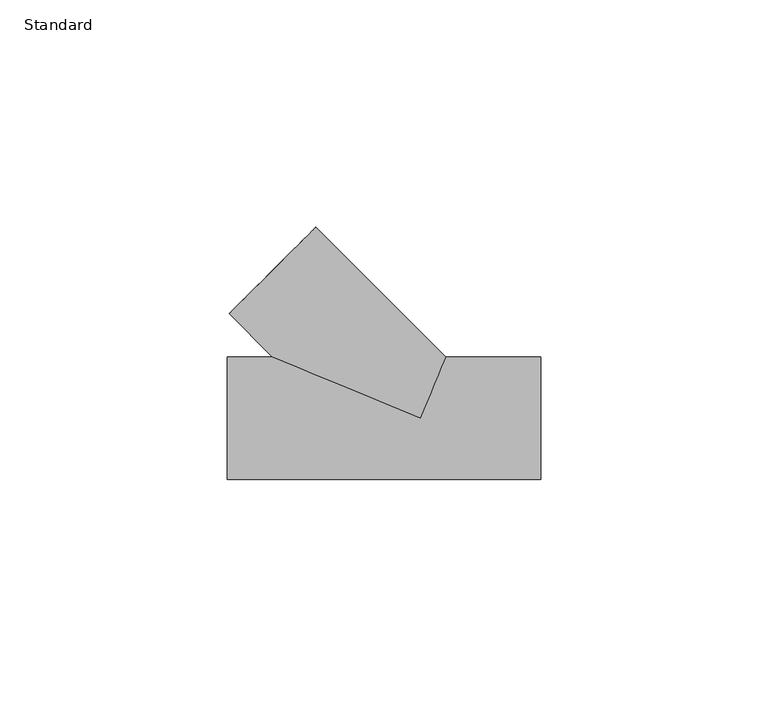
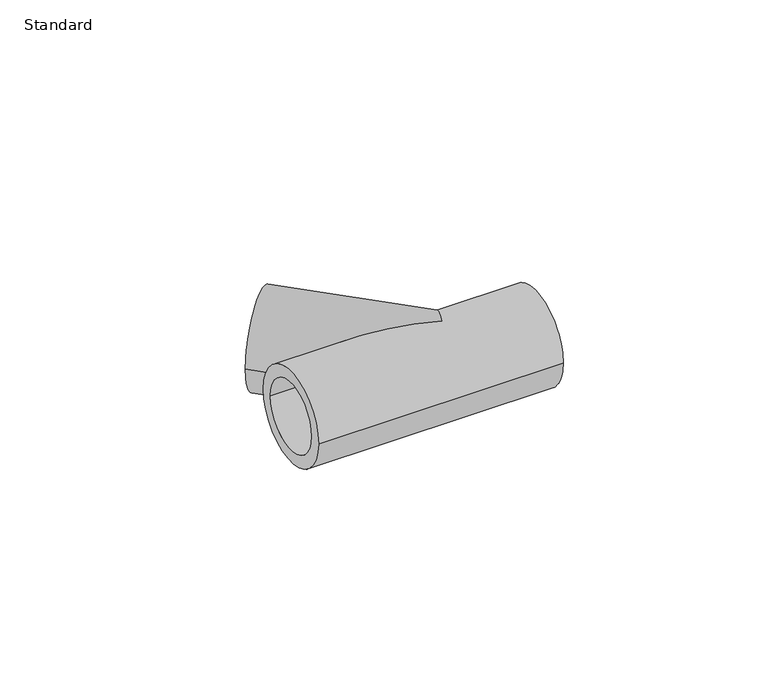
"""IFC4 building model written with IfcOpenShell, lengths in millimetres: pipe fitting geometry, Durapipe_PipeFitting_PVC_Tee45deg : Standard."""

from ifc_helpers import new_model, si_unit, frame, origin, place, context, project, spatial, polyline, circle_curve, ellipse_curve, source, transform, mapped, element, save
from ifc_brep_helpers import plane_surface, cylinder_surface, revolved_surface, advanced_brep


def standard_9f0dd0de(model_context):
    return source(origin(), model_context, "Body", "AdvancedBrep", [
        advanced_brep(
        [(-42.0728535, 22.9809704, 0.0), (-22.9809704, 42.0728535, 0.0), (-39.5979797, 25.4558441, 0.0), (-25.4558441, 39.5979797, 0.0), (-32.5918831, 13.5, 0.0), (0.0, 0.0, 13.5), (5.5918831, 13.5, 0.0), (0.0, 0.0, -13.5), (-42.5, -13.5, 0.0), (-42.5, 13.5, 0.0), (-42.5, -10.0, 0.0), (-42.5, 10.0, 0.0), (26.5, -13.5, 0.0), (26.5, 13.5, 0.0), (26.5, 10.0, 0.0), (26.5, -10.0, 0.0), (-21.2132034, 21.2132034, 0.0), (-14.1421356, 28.2842712, 0.0), (-28.2842712, 14.1421356, 0.0), (-23.0, -10.0, 0.0), (-23.0, 0.0, 0.0), (-23.0, 10.0, 0.0), (7.0, -10.0, 0.0), (7.0, 10.0, 0.0), (7.0, 0.0, 0.0)],
        [
            (0, 1, circle_curve(frame((-32.5269119, 32.5269119, 0.0), z_axis=(-0.7071067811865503, 0.7071067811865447, 0.0), x_axis=(0.7071067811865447, 0.7071067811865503, 0.0)), 13.5)),
            (1, 0, circle_curve(frame((-32.5269119, 32.5269119, 0.0), z_axis=(-0.7071067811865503, 0.7071067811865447, 0.0), x_axis=(0.7071067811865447, 0.7071067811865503, 0.0)), 13.5)),
            (2, 3, circle_curve(frame((-32.5269119, 32.5269119, 0.0), z_axis=(0.7071067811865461, -0.707106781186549, 0.0), x_axis=(-0.7071067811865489, -0.707106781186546, 0.0)), 10.0)),
            (3, 2, circle_curve(frame((-32.5269119, 32.5269119, 0.0), z_axis=(0.7071067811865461, -0.707106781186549, 0.0), x_axis=(-0.7071067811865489, -0.707106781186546, 0.0)), 10.0)),
            (0, 4),
            (4, 5, ellipse_curve(frame((0.0, 0.0, 0.0), z_axis=(0.3826834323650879, 0.9238795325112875, 0.0), x_axis=(-0.9238795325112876, 0.38268343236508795, 0.0)), 35.2772001, 13.5)),
            (5, 6, ellipse_curve(frame((0.0, 0.0, 0.0), z_axis=(-0.9238795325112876, 0.38268343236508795, 0.0), x_axis=(0.3826834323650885, 0.9238795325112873, 0.0)), 14.6122947, 13.5)),
            (6, 1),
            (6, 7, ellipse_curve(frame((0.0, 0.0, 0.0), z_axis=(-0.9238795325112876, 0.38268343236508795, 0.0), x_axis=(0.3826834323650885, 0.9238795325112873, 0.0)), 14.6122947, 13.5)),
            (7, 4, ellipse_curve(frame((0.0, 0.0, 0.0), z_axis=(0.3826834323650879, 0.9238795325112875, 0.0), x_axis=(-0.9238795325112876, 0.38268343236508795, 0.0)), 35.2772001, 13.5)),
            (8, 9, circle_curve(frame((-42.5, 0.0, 0.0), z_axis=(-1.0, 0.0, 0.0), x_axis=(0.0, 1.0, 0.0)), 13.5)),
            (9, 8, circle_curve(frame((-42.5, 0.0, 0.0), z_axis=(-1.0, 0.0, 0.0), x_axis=(0.0, 1.0, 0.0)), 13.5)),
            (10, 11, circle_curve(frame((-42.5, 0.0, 0.0), z_axis=(1.0, 0.0, 0.0), x_axis=(0.0, 1.0, 0.0)), 10.0)),
            (11, 10, circle_curve(frame((-42.5, 0.0, 0.0), z_axis=(1.0, 0.0, 0.0), x_axis=(0.0, 1.0, 0.0)), 10.0)),
            (12, 13, circle_curve(frame((26.5, 0.0, 0.0), z_axis=(1.0, 0.0, 0.0), x_axis=(0.0, 1.0, 0.0)), 13.5)),
            (13, 12, circle_curve(frame((26.5, 0.0, 0.0), z_axis=(1.0, 0.0, 0.0), x_axis=(0.0, 1.0, 0.0)), 13.5)),
            (14, 15, circle_curve(frame((26.5, 0.0, 0.0), z_axis=(-1.0, 0.0, 0.0), x_axis=(0.0, 1.0, 0.0)), 10.0)),
            (15, 14, circle_curve(frame((26.5, 0.0, 0.0), z_axis=(-1.0, 0.0, 0.0), x_axis=(0.0, 1.0, 0.0)), 10.0)),
            (8, 12),
            (13, 6),
            (4, 9),
            (16, 17),
            (17, 18, circle_curve(frame((-21.2132034, 21.2132034, 0.0), z_axis=(-0.7071067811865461, 0.707106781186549, 0.0), x_axis=(-0.7071067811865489, -0.707106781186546, 0.0)), 10.0)),
            (18, 16),
            (18, 17, circle_curve(frame((-21.2132034, 21.2132034, 0.0), z_axis=(-0.7071067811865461, 0.707106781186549, 0.0), x_axis=(-0.7071067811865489, -0.707106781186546, 0.0)), 10.0)),
            (17, 3),
            (2, 18),
            (19, 20),
            (20, 21),
            (21, 19, circle_curve(frame((-23.0, 0.0, 0.0), z_axis=(-1.0, 0.0, 0.0), x_axis=(0.0, 1.0, 0.0)), 10.0)),
            (19, 21, circle_curve(frame((-23.0, 0.0, 0.0), z_axis=(-1.0, 0.0, 0.0), x_axis=(0.0, 1.0, 0.0)), 10.0)),
            (21, 11),
            (10, 19),
            (22, 15),
            (14, 23),
            (23, 22, circle_curve(frame((7.0, 0.0, 0.0), z_axis=(-1.0, 0.0, 0.0), x_axis=(0.0, 1.0, 0.0)), 10.0)),
            (22, 23, circle_curve(frame((7.0, 0.0, 0.0), z_axis=(-1.0, 0.0, 0.0), x_axis=(0.0, 1.0, 0.0)), 10.0)),
            (23, 24),
            (24, 22),
        ],
        [
            plane_surface(frame((-32.5269119, 32.5269119, 0.0), z_axis=(-0.7071067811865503, 0.7071067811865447, 0.0), x_axis=(0.0, 0.0, 1.0))),
            cylinder_surface(frame((-32.5269119, 32.5269119, 0.0), z_axis=(-0.7071067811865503, 0.7071067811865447, 0.0), x_axis=(0.7071067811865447, 0.7071067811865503, 0.0)), 13.5),
            plane_surface(frame((-42.5, 0.0, 0.0), z_axis=(-1.0, 0.0, 0.0), x_axis=(0.0, 0.0, 1.0))),
            plane_surface(frame((26.5, 0.0, 0.0), z_axis=(1.0, 0.0, 0.0), x_axis=(0.0, 0.0, 1.0))),
            cylinder_surface(frame((-42.5, 0.0, 0.0), z_axis=(-1.0, 0.0, 0.0), x_axis=(0.0, 1.0, 0.0)), 13.5),
            plane_surface(frame((-21.2132034, 21.2132034, 0.0), z_axis=(-0.7071067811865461, 0.707106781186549, 0.0), x_axis=(-0.707106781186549, -0.7071067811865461, 0.0))),
            revolved_surface(polyline([(-28.284271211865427, 14.142135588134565, 0.0), (-39.597979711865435, 25.45584408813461, 0.0)]), (0.0, 0.0, 0.0), (0.707106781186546, -0.7071067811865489, 0.0)),
            plane_surface(frame((-23.0, 0.0, 0.0), z_axis=(-1.0, 0.0, 0.0), x_axis=(0.0, 1.0, 0.0))),
            revolved_surface(polyline([(-42.5, 10.0, 0.0), (-23.0, 10.0, 0.0)]), (2002.5, 0.0, 0.0), (-1.0, 0.0, 0.0)),
            revolved_surface(polyline([(7.0, 10.0, 0.0), (26.5, 10.0, 0.0)]), (1971.5, 0.0, 0.0), (-1.0, 0.0, 0.0)),
            plane_surface(frame((7.0, 0.0, 0.0), z_axis=(1.0, 0.0, 0.0), x_axis=(0.0, 1.0, 0.0))),
        ],
        [
            (0, [[1, 2], [3, 4]]),
            (1, [[-1, 5, 6, 7, 8]]),
            (1, [[-2, -8, 9, 10, -5]]),
            (2, [[11, 12], [13, 14]]),
            (3, [[15, 16], [17, 18]]),
            (4, [[-11, 19, -16, 20, -7, -6, 21]]),
            (4, [[-12, -21, -10, -9, -20, -15, -19]]),
            (5, [[22, 23, 24]]),
            (5, [[-22, -24, 25]]),
            (6, [[-23, 26, -3, 27]]),
            (6, [[-25, -27, -4, -26]]),
            (7, [[28, 29, 30]]),
            (7, [[-28, 31, -29]]),
            (8, [[-30, 32, -13, 33]]),
            (8, [[-31, -33, -14, -32]]),
            (9, [[34, -17, 35, 36]]),
            (9, [[-34, 37, -35, -18]]),
            (10, [[-36, 38, 39]]),
            (10, [[-37, -39, -38]]),
        ],
    ),
    ])


if __name__ == "__main__":
    model = new_model("IFC4")
    model_context = context("Model", 3, world=origin())
    ifc_project = project(units=[si_unit("LENGTHUNIT", "METRE", prefix="MILLI")], contexts=[model_context])
    site = spatial("IfcSite", under=ifc_project)
    building = spatial("IfcBuilding", under=site)
    placement = place(None, origin())
    standard_shape = standard_9f0dd0de(model_context)
    element("IfcPipeFitting", 1, ObjectType="Durapipe_PipeFitting_PVC_Tee45deg : Standard", at=placement, inside=building, context=model_context, shape_type="MappedRepresentation", body=[
        mapped(standard_shape, transform((0.0, 0.0, 0.0), x_axis=(1.0, 0.0, 0.0), y_axis=(0.0, 1.0, 0.0), z_axis=(0.0, 0.0, 1.0))),
    ])
    save(model, "model.ifc")
